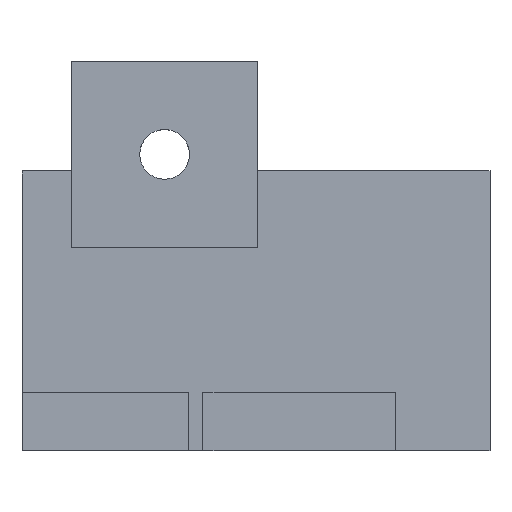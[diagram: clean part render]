
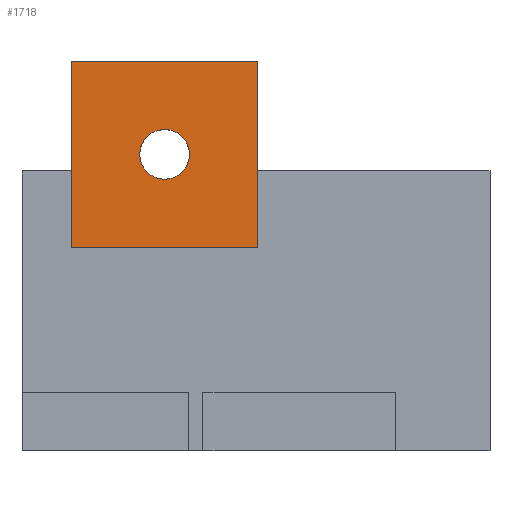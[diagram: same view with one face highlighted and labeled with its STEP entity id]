
A CAD part, top view. The second image highlights one B-rep face of the part: STEP entity #1718.
In plain terms, the highlighted planar face has unit normal (0, 0, 1).
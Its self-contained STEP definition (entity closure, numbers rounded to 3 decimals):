
#691 = PLANE('',#692);
#692 = AXIS2_PLACEMENT_3D('',#693,#694,#695);
#693 = CARTESIAN_POINT('',(-26.5,19.,6.5));
#694 = DIRECTION('',(1.,0.,-0.));
#695 = DIRECTION('',(0.,0.,1.));
#718 = PLANE('',#719);
#719 = AXIS2_PLACEMENT_3D('',#720,#721,#722);
#720 = CARTESIAN_POINT('',(-35.5,19.,6.5));
#721 = DIRECTION('',(-0.,1.,0.));
#722 = DIRECTION('',(0.,0.,1.));
#742 = PLANE('',#743);
#743 = AXIS2_PLACEMENT_3D('',#744,#745,#746);
#744 = CARTESIAN_POINT('',(-35.5,19.,6.5));
#745 = DIRECTION('',(1.,0.,-0.));
#746 = DIRECTION('',(0.,0.,1.));
#893 = PLANE('',#894);
#894 = AXIS2_PLACEMENT_3D('',#895,#896,#897);
#895 = CARTESIAN_POINT('',(-35.5,28.,6.5));
#896 = DIRECTION('',(-0.,1.,0.));
#897 = DIRECTION('',(0.,0.,1.));
#1059 = CYLINDRICAL_SURFACE('',#1060,1.2);
#1060 = AXIS2_PLACEMENT_3D('',#1061,#1062,#1063);
#1061 = CARTESIAN_POINT('',(-31.,23.5,2.));
#1062 = DIRECTION('',(0.,0.,1.));
#1063 = DIRECTION('',(1.,0.,-0.));
#1234 = VERTEX_POINT('',#1235);
#1235 = CARTESIAN_POINT('',(-35.5,19.,10.5));
#1260 = VERTEX_POINT('',#1261);
#1261 = CARTESIAN_POINT('',(-35.5,28.,10.5));
#1282 = EDGE_CURVE('',#1234,#1260,#1283,.T.);
#1283 = SURFACE_CURVE('',#1284,(#1288,#1295),.PCURVE_S1.);
#1284 = LINE('',#1285,#1286);
#1285 = CARTESIAN_POINT('',(-35.5,19.,10.5));
#1286 = VECTOR('',#1287,1.);
#1287 = DIRECTION('',(-0.,1.,0.));
#1288 = PCURVE('',#742,#1289);
#1289 = DEFINITIONAL_REPRESENTATION('',(#1290),#1294);
#1290 = LINE('',#1291,#1292);
#1291 = CARTESIAN_POINT('',(4.,0.));
#1292 = VECTOR('',#1293,1.);
#1293 = DIRECTION('',(0.,-1.));
#1294 = ( GEOMETRIC_REPRESENTATION_CONTEXT(2) 
PARAMETRIC_REPRESENTATION_CONTEXT() REPRESENTATION_CONTEXT('2D SPACE',''
  ) );
#1295 = PCURVE('',#1296,#1301);
#1296 = PLANE('',#1297);
#1297 = AXIS2_PLACEMENT_3D('',#1298,#1299,#1300);
#1298 = CARTESIAN_POINT('',(-35.5,19.,10.5));
#1299 = DIRECTION('',(0.,0.,1.));
#1300 = DIRECTION('',(1.,0.,-0.));
#1301 = DEFINITIONAL_REPRESENTATION('',(#1302),#1306);
#1302 = LINE('',#1303,#1304);
#1303 = CARTESIAN_POINT('',(0.,0.));
#1304 = VECTOR('',#1305,1.);
#1305 = DIRECTION('',(0.,1.));
#1306 = ( GEOMETRIC_REPRESENTATION_CONTEXT(2) 
PARAMETRIC_REPRESENTATION_CONTEXT() REPRESENTATION_CONTEXT('2D SPACE',''
  ) );
#1312 = VERTEX_POINT('',#1313);
#1313 = CARTESIAN_POINT('',(-26.5,19.,10.5));
#1336 = EDGE_CURVE('',#1234,#1312,#1337,.T.);
#1337 = SURFACE_CURVE('',#1338,(#1342,#1349),.PCURVE_S1.);
#1338 = LINE('',#1339,#1340);
#1339 = CARTESIAN_POINT('',(-35.5,19.,10.5));
#1340 = VECTOR('',#1341,1.);
#1341 = DIRECTION('',(1.,0.,-0.));
#1342 = PCURVE('',#718,#1343);
#1343 = DEFINITIONAL_REPRESENTATION('',(#1344),#1348);
#1344 = LINE('',#1345,#1346);
#1345 = CARTESIAN_POINT('',(4.,0.));
#1346 = VECTOR('',#1347,1.);
#1347 = DIRECTION('',(0.,1.));
#1348 = ( GEOMETRIC_REPRESENTATION_CONTEXT(2) 
PARAMETRIC_REPRESENTATION_CONTEXT() REPRESENTATION_CONTEXT('2D SPACE',''
  ) );
#1349 = PCURVE('',#1296,#1350);
#1350 = DEFINITIONAL_REPRESENTATION('',(#1351),#1355);
#1351 = LINE('',#1352,#1353);
#1352 = CARTESIAN_POINT('',(0.,0.));
#1353 = VECTOR('',#1354,1.);
#1354 = DIRECTION('',(1.,0.));
#1355 = ( GEOMETRIC_REPRESENTATION_CONTEXT(2) 
PARAMETRIC_REPRESENTATION_CONTEXT() REPRESENTATION_CONTEXT('2D SPACE',''
  ) );
#1384 = VERTEX_POINT('',#1385);
#1385 = CARTESIAN_POINT('',(-26.5,28.,10.5));
#1406 = EDGE_CURVE('',#1312,#1384,#1407,.T.);
#1407 = SURFACE_CURVE('',#1408,(#1412,#1419),.PCURVE_S1.);
#1408 = LINE('',#1409,#1410);
#1409 = CARTESIAN_POINT('',(-26.5,19.,10.5));
#1410 = VECTOR('',#1411,1.);
#1411 = DIRECTION('',(-0.,1.,0.));
#1412 = PCURVE('',#691,#1413);
#1413 = DEFINITIONAL_REPRESENTATION('',(#1414),#1418);
#1414 = LINE('',#1415,#1416);
#1415 = CARTESIAN_POINT('',(4.,0.));
#1416 = VECTOR('',#1417,1.);
#1417 = DIRECTION('',(0.,-1.));
#1418 = ( GEOMETRIC_REPRESENTATION_CONTEXT(2) 
PARAMETRIC_REPRESENTATION_CONTEXT() REPRESENTATION_CONTEXT('2D SPACE',''
  ) );
#1419 = PCURVE('',#1296,#1420);
#1420 = DEFINITIONAL_REPRESENTATION('',(#1421),#1425);
#1421 = LINE('',#1422,#1423);
#1422 = CARTESIAN_POINT('',(9.,0.));
#1423 = VECTOR('',#1424,1.);
#1424 = DIRECTION('',(0.,1.));
#1425 = ( GEOMETRIC_REPRESENTATION_CONTEXT(2) 
PARAMETRIC_REPRESENTATION_CONTEXT() REPRESENTATION_CONTEXT('2D SPACE',''
  ) );
#1447 = EDGE_CURVE('',#1260,#1384,#1448,.T.);
#1448 = SURFACE_CURVE('',#1449,(#1453,#1460),.PCURVE_S1.);
#1449 = LINE('',#1450,#1451);
#1450 = CARTESIAN_POINT('',(-35.5,28.,10.5));
#1451 = VECTOR('',#1452,1.);
#1452 = DIRECTION('',(1.,0.,-0.));
#1453 = PCURVE('',#893,#1454);
#1454 = DEFINITIONAL_REPRESENTATION('',(#1455),#1459);
#1455 = LINE('',#1456,#1457);
#1456 = CARTESIAN_POINT('',(4.,0.));
#1457 = VECTOR('',#1458,1.);
#1458 = DIRECTION('',(0.,1.));
#1459 = ( GEOMETRIC_REPRESENTATION_CONTEXT(2) 
PARAMETRIC_REPRESENTATION_CONTEXT() REPRESENTATION_CONTEXT('2D SPACE',''
  ) );
#1460 = PCURVE('',#1296,#1461);
#1461 = DEFINITIONAL_REPRESENTATION('',(#1462),#1466);
#1462 = LINE('',#1463,#1464);
#1463 = CARTESIAN_POINT('',(0.,9.));
#1464 = VECTOR('',#1465,1.);
#1465 = DIRECTION('',(1.,0.));
#1466 = ( GEOMETRIC_REPRESENTATION_CONTEXT(2) 
PARAMETRIC_REPRESENTATION_CONTEXT() REPRESENTATION_CONTEXT('2D SPACE',''
  ) );
#1672 = EDGE_CURVE('',#1673,#1673,#1675,.T.);
#1673 = VERTEX_POINT('',#1674);
#1674 = CARTESIAN_POINT('',(-29.8,23.5,10.5));
#1675 = SURFACE_CURVE('',#1676,(#1681,#1688),.PCURVE_S1.);
#1676 = CIRCLE('',#1677,1.2);
#1677 = AXIS2_PLACEMENT_3D('',#1678,#1679,#1680);
#1678 = CARTESIAN_POINT('',(-31.,23.5,10.5));
#1679 = DIRECTION('',(0.,0.,1.));
#1680 = DIRECTION('',(1.,0.,-0.));
#1681 = PCURVE('',#1059,#1682);
#1682 = DEFINITIONAL_REPRESENTATION('',(#1683),#1687);
#1683 = LINE('',#1684,#1685);
#1684 = CARTESIAN_POINT('',(0.,8.5));
#1685 = VECTOR('',#1686,1.);
#1686 = DIRECTION('',(1.,0.));
#1687 = ( GEOMETRIC_REPRESENTATION_CONTEXT(2) 
PARAMETRIC_REPRESENTATION_CONTEXT() REPRESENTATION_CONTEXT('2D SPACE',''
  ) );
#1688 = PCURVE('',#1296,#1689);
#1689 = DEFINITIONAL_REPRESENTATION('',(#1690),#1694);
#1690 = CIRCLE('',#1691,1.2);
#1691 = AXIS2_PLACEMENT_2D('',#1692,#1693);
#1692 = CARTESIAN_POINT('',(4.5,4.5));
#1693 = DIRECTION('',(1.,0.));
#1694 = ( GEOMETRIC_REPRESENTATION_CONTEXT(2) 
PARAMETRIC_REPRESENTATION_CONTEXT() REPRESENTATION_CONTEXT('2D SPACE',''
  ) );
#1718 = ADVANCED_FACE('',(#1719,#1725),#1296,.T.);
#1719 = FACE_BOUND('',#1720,.T.);
#1720 = EDGE_LOOP('',(#1721,#1722,#1723,#1724));
#1721 = ORIENTED_EDGE('',*,*,#1282,.F.);
#1722 = ORIENTED_EDGE('',*,*,#1336,.T.);
#1723 = ORIENTED_EDGE('',*,*,#1406,.T.);
#1724 = ORIENTED_EDGE('',*,*,#1447,.F.);
#1725 = FACE_BOUND('',#1726,.T.);
#1726 = EDGE_LOOP('',(#1727));
#1727 = ORIENTED_EDGE('',*,*,#1672,.F.);
